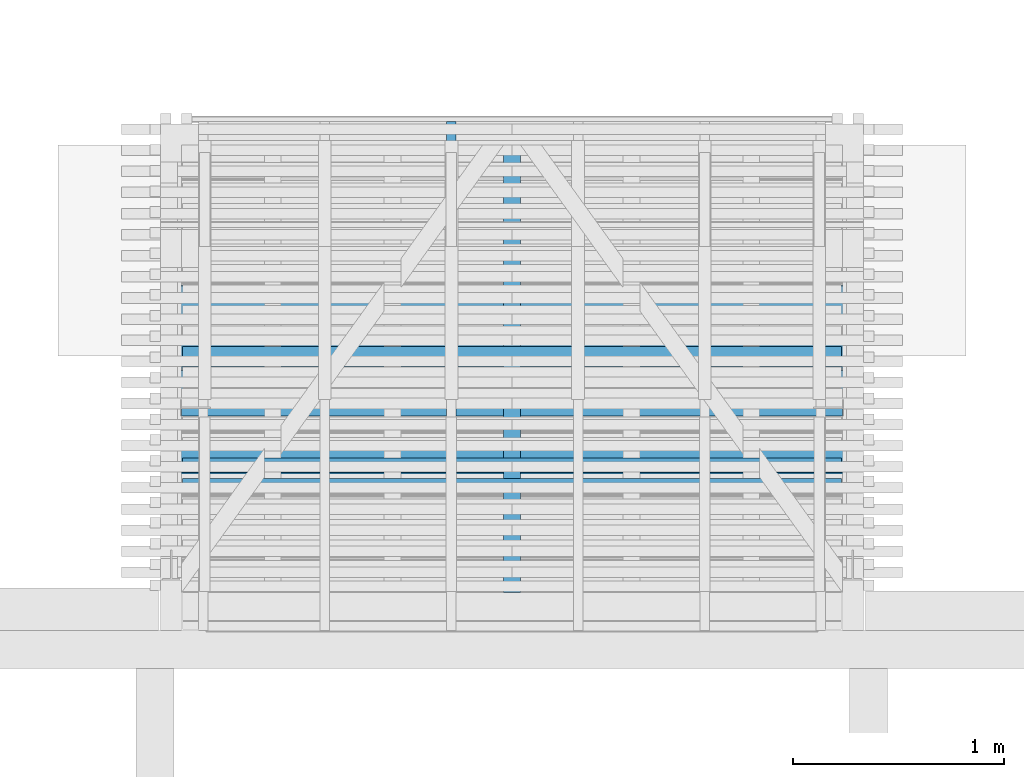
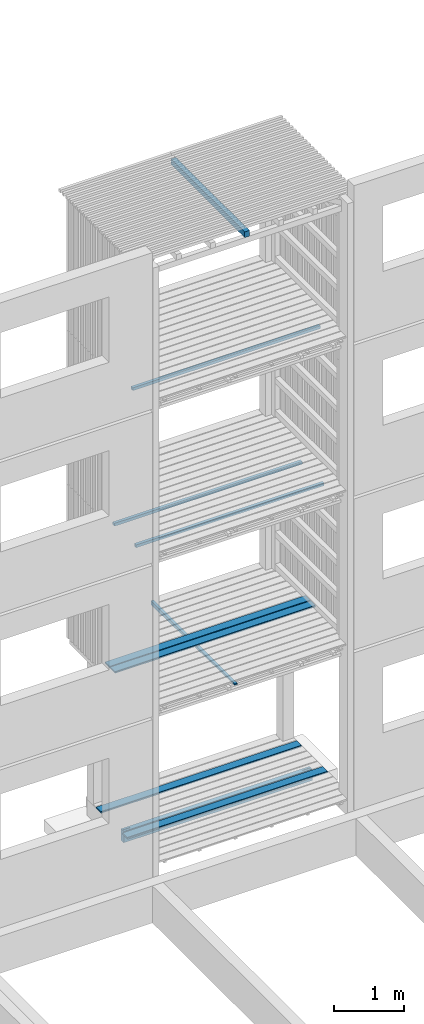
# One storey, part 95 of 182: 10 beams.
"""IFC2X3 building model written with IfcOpenShell, lengths in metres."""

from ifc_helpers import new_model, si_unit, frame, origin, place, context, project, spatial, faceted_brep, element, save


model = new_model("IFC2X3")

# Units and contexts
model_context = context("Model", 3, precision=1e-06, world=origin())
ifc_project = project(units=[si_unit("LENGTHUNIT", "METRE"), si_unit("PLANEANGLEUNIT", "RADIAN")], contexts=[model_context])

# Site, building, storey
site = spatial("IfcSite", under=ifc_project, CompositionType="ELEMENT")
building = spatial("IfcBuilding", under=site, CompositionType="ELEMENT")
storey = spatial("IfcBuildingStorey", under=building, Name="vs", CompositionType="ELEMENT", Elevation=-0.85)

# Beams
placement = place(None, origin())
beam_1_placement = place(placement, frame((46.240401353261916, 6.189244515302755, 5.167399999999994), z_axis=(0.0, 0.0, 1.0), x_axis=(-1.0, 0.0, 0.0)))
element("IfcBeam", 1, at=beam_1_placement, inside=storey, Name="Bardage", context=model_context, shape_type="Brep", body=[
    faceted_brep([(3.120000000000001, 0.025000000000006, -0.024999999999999), (3.120000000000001, 0.025000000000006, 0.025), (3.120000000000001, -0.024999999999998, 0.025), (3.120000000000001, -0.024999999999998, -0.024999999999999), (-3e-15, -0.024999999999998, -0.024999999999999), (-3e-15, -0.024999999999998, 0.025), (-3e-15, 0.025000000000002, 0.025), (-3e-15, 0.025000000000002, -0.024999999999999), (-3e-15, 0.025000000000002, -0.024999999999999), (-3e-15, 0.025000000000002, 0.025), (3.120000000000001, 0.025000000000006, 0.025), (3.120000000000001, 0.025000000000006, -0.024999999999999), (-3e-15, 0.025000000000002, 0.025), (-3e-15, -0.024999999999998, 0.025), (3.120000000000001, -0.024999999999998, 0.025), (3.120000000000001, 0.025000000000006, 0.025), (-3e-15, -0.024999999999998, 0.025), (-3e-15, -0.024999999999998, -0.024999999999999), (3.120000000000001, -0.024999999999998, -0.024999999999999), (3.120000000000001, -0.024999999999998, 0.025), (-3e-15, -0.024999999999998, -0.024999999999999), (-3e-15, 0.025000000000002, -0.024999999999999), (3.120000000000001, 0.025000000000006, -0.024999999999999), (3.120000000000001, -0.024999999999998, -0.024999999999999)], [[[0, 1, 2, 3]], [[4, 5, 6, 7]], [[8, 9, 10, 11]], [[12, 13, 14, 15]], [[16, 17, 18, 19]], [[20, 21, 22, 23]]]),
])
beam_2_placement = place(placement, frame((46.345401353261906, 6.034577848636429, 2.733499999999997), z_axis=(0.0, 0.0, 1.0), x_axis=(-1.0, -1e-14, 0.0)))
element("IfcBeam", 2, at=beam_2_placement, inside=storey, Name="Caillebotis", context=model_context, shape_type="Brep", body=[
    faceted_brep([(3.329999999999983, -0.072500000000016, -0.0135), (3.329999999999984, 0.072499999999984, -0.0135), (3.329999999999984, 0.072499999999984, 0.0085), (3.329999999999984, 0.067499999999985, 0.0135), (3.329999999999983, -0.067500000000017, 0.0135), (3.329999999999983, -0.072500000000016, 0.008500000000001), (-1.5e-14, -0.072499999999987, 0.008500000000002), (-1.5e-14, -0.067499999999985, 0.0135), (-1.4e-14, 0.067500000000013, 0.0135), (-1.4e-14, 0.072500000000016, 0.0085), (-1.4e-14, 0.072500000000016, -0.0135), (-1.5e-14, -0.072499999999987, -0.0135), (3.329999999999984, 0.072499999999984, 0.0085), (3.329999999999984, 0.072499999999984, -0.0135), (-1.4e-14, 0.072500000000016, -0.0135), (-1.4e-14, 0.072500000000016, 0.0085), (3.329999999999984, 0.067499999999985, 0.0135), (3.329999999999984, 0.072499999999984, 0.0085), (-1.4e-14, 0.072500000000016, 0.0085), (-1.4e-14, 0.067500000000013, 0.0135), (3.329999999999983, -0.067500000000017, 0.0135), (3.329999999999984, 0.067499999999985, 0.0135), (-1.4e-14, 0.067500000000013, 0.0135), (-1.5e-14, -0.067499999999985, 0.0135), (3.329999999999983, -0.072500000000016, 0.008500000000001), (3.329999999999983, -0.067500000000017, 0.0135), (-1.5e-14, -0.067499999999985, 0.0135), (-1.5e-14, -0.072499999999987, 0.008500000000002), (3.329999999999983, -0.072500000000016, -0.0135), (3.329999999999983, -0.072500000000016, 0.008500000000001), (-1.5e-14, -0.072499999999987, 0.008500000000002), (-1.5e-14, -0.072499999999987, -0.0135), (-1.4e-14, 0.072500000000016, -0.0135), (3.329999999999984, 0.072499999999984, -0.0135), (3.329999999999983, -0.072500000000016, -0.0135), (-1.5e-14, -0.072499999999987, -0.0135)], [[[0, 1, 2, 3, 4, 5]], [[6, 7, 8, 9, 10, 11]], [[12, 13, 14, 15]], [[16, 17, 18, 19]], [[20, 21, 22, 23]], [[24, 25, 26, 27]], [[28, 29, 30, 31]], [[32, 33, 34, 35]]]),
])
beam_3_placement = place(placement, frame((44.39340135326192, 4.870077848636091, 2.684400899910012), z_axis=(0.0, 0.0, 1.0), x_axis=(0.0, 1.0, 0.0)))
element("IfcBeam", 3, at=beam_3_placement, inside=storey, Name="Calage", context=model_context, shape_type="Brep", body=[
    faceted_brep([(2.410000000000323, -0.022499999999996, -0.035599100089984), (0.0, -0.022499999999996, 0.012600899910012), (0.0, 0.022500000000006, 0.012600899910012), (2.410000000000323, 0.022500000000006, -0.035599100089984), (0.0, 0.022500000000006, 0.035599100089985), (0.0, 0.022500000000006, 0.012600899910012), (0.0, -0.022499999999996, 0.012600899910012), (0.0, -0.022499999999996, 0.035599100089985), (2.410000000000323, 0.022500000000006, -0.035599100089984), (0.0, 0.022500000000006, 0.012600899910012), (0.0, 0.022500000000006, 0.035599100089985), (2.410000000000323, 0.022500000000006, 0.035599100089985), (2.410000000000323, -0.022499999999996, 0.035599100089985), (0.0, -0.022499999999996, 0.035599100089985), (0.0, -0.022499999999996, 0.012600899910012), (2.410000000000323, -0.022499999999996, -0.035599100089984), (2.410000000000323, 0.022500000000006, 0.035599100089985), (0.0, 0.022500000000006, 0.035599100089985), (0.0, -0.022499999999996, 0.035599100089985), (2.410000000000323, -0.022499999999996, 0.035599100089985), (2.410000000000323, 0.022500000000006, -0.035599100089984), (2.410000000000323, 0.022500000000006, 0.035599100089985), (2.410000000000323, -0.022499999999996, 0.035599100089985), (2.410000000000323, -0.022499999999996, -0.035599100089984)], [[[0, 1, 2, 3]], [[4, 5, 6, 7]], [[8, 9, 10, 11]], [[12, 13, 14, 15]], [[16, 17, 18, 19]], [[20, 21, 22, 23]]]),
])
beam_4_placement = place(placement, frame((46.345401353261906, 6.434577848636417, 0.033500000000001), z_axis=(0.0, 0.0, 1.0), x_axis=(-1.0, -1e-15, 0.0)))
element("IfcBeam", 4, at=beam_4_placement, inside=storey, Name="Caillebotis", context=model_context, shape_type="Brep", body=[
    faceted_brep([(3.329999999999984, -0.067499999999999, 0.0135), (3.329999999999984, -0.072500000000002, 0.008500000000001), (3.329999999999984, -0.072500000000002, -0.013500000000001), (3.329999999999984, 0.072500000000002, -0.013500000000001), (3.329999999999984, 0.072500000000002, 0.0085), (3.329999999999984, 0.067499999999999, 0.0135), (0.0, 0.067500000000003, 0.0135), (0.0, 0.072500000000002, 0.0085), (0.0, 0.072500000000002, -0.013500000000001), (0.0, -0.072499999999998, -0.013500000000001), (0.0, -0.072499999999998, 0.008500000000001), (0.0, -0.067499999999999, 0.0135), (3.329999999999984, -0.072500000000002, -0.013500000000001), (3.329999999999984, -0.072500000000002, 0.008500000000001), (0.0, -0.072499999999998, 0.008500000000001), (0.0, -0.072499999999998, -0.013500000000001), (3.329999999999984, 0.072500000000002, -0.013500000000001), (3.329999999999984, -0.072500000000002, -0.013500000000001), (0.0, -0.072499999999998, -0.013500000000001), (0.0, 0.072500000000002, -0.013500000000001), (3.329999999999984, 0.072500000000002, 0.0085), (3.329999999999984, 0.072500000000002, -0.013500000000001), (0.0, 0.072500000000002, -0.013500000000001), (0.0, 0.072500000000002, 0.0085), (3.329999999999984, 0.067499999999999, 0.0135), (3.329999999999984, 0.072500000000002, 0.0085), (0.0, 0.072500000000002, 0.0085), (0.0, 0.067500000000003, 0.0135), (3.329999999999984, -0.067499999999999, 0.0135), (3.329999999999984, 0.067499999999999, 0.0135), (0.0, 0.067500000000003, 0.0135), (0.0, -0.067499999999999, 0.0135), (0.0, -0.072499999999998, 0.008500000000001), (3.329999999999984, -0.072500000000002, 0.008500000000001), (3.329999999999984, -0.067499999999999, 0.0135), (0.0, -0.067499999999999, 0.0135)], [[[0, 1, 2, 3, 4, 5]], [[6, 7, 8, 9, 10, 11]], [[12, 13, 14, 15]], [[16, 17, 18, 19]], [[20, 21, 22, 23]], [[24, 25, 26, 27]], [[28, 29, 30, 31]], [[32, 33, 34, 35]]]),
])
beam_5_placement = place(placement, frame((46.24540135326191, 5.925077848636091, -0.143899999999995), z_axis=(0.0, 0.0, 1.0), x_axis=(-1.0, -2e-15, 0.0)))
element("IfcBeam", 5, at=beam_5_placement, inside=storey, Name="Sommier", context=model_context, shape_type="Brep", body=[
    faceted_brep([(0.137000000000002, -0.003999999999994, 0.1), (0.137000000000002, -0.003999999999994, -0.1), (1e-15, -0.003999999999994, -0.1), (1e-15, -0.003999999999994, 0.1), (0.137000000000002, 0.004000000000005, -0.1), (0.137000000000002, -0.003999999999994, -0.1), (0.137000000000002, -0.003999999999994, 0.1), (0.137000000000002, 0.004000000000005, 0.1), (0.137000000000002, 0.004000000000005, -0.1), (0.137000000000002, 0.004000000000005, 0.1), (1e-15, 0.004000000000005, 0.1), (1e-15, 0.004000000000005, -0.1), (1e-15, -0.003999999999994, 0.1), (1e-15, -0.003999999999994, -0.1), (1e-15, -0.039999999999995, -0.1), (1e-15, -0.039999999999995, 0.1), (1e-15, 0.040000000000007, 0.1), (1e-15, 0.040000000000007, -0.1), (1e-15, 0.004000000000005, -0.1), (1e-15, 0.004000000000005, 0.1), (3.129999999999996, 0.004000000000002, 0.1), (2.992999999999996, 0.004000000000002, 0.1), (2.992999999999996, 0.004000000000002, -0.1), (3.129999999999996, 0.004000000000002, -0.1), (2.992999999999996, -0.004000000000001, 0.1), (2.992999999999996, -0.004000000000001, -0.1), (2.992999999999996, 0.004000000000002, -0.1), (2.992999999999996, 0.004000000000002, 0.1), (3.129999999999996, -0.004000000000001, -0.1), (2.992999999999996, -0.004000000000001, -0.1), (2.992999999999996, -0.004000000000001, 0.1), (3.129999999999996, -0.004000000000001, 0.1), (3.129999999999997, 0.04, 0.1), (3.129999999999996, 0.004000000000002, 0.1), (3.129999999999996, 0.004000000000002, -0.1), (3.129999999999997, 0.04, -0.1), (3.129999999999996, -0.040000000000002, 0.1), (3.129999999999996, -0.040000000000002, -0.1), (3.129999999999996, -0.004000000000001, -0.1), (3.129999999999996, -0.004000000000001, 0.1), (1e-15, -0.039999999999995, -0.1), (1e-15, -0.003999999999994, -0.1), (0.137000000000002, -0.003999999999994, -0.1), (0.137000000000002, 0.004000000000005, -0.1), (1e-15, 0.004000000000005, -0.1), (1e-15, 0.040000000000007, -0.1), (3.129999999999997, 0.04, -0.1), (3.129999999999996, 0.004000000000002, -0.1), (2.992999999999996, 0.004000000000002, -0.1), (2.992999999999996, -0.004000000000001, -0.1), (3.129999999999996, -0.004000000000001, -0.1), (3.129999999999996, -0.040000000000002, -0.1), (2.992999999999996, 0.004000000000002, 0.1), (3.129999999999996, 0.004000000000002, 0.1), (3.129999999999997, 0.04, 0.1), (1e-15, 0.040000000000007, 0.1), (1e-15, 0.004000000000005, 0.1), (0.137000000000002, 0.004000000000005, 0.1), (0.137000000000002, -0.003999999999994, 0.1), (1e-15, -0.003999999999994, 0.1), (1e-15, -0.039999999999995, 0.1), (3.129999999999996, -0.040000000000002, 0.1), (3.129999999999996, -0.004000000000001, 0.1), (2.992999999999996, -0.004000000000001, 0.1), (1e-15, 0.040000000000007, 0.1), (3.129999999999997, 0.04, 0.1), (3.129999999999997, 0.04, -0.1), (1e-15, 0.040000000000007, -0.1), (1e-15, -0.039999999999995, -0.1), (3.129999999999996, -0.040000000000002, -0.1), (3.129999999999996, -0.040000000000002, 0.1), (1e-15, -0.039999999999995, 0.1)], [[[0, 1, 2, 3]], [[4, 5, 6, 7]], [[8, 9, 10, 11]], [[12, 13, 14, 15]], [[16, 17, 18, 19]], [[20, 21, 22, 23]], [[24, 25, 26, 27]], [[28, 29, 30, 31]], [[32, 33, 34, 35]], [[36, 37, 38, 39]], [[40, 41, 42, 43, 44, 45, 46, 47, 48, 49, 50, 51]], [[52, 53, 54, 55, 56, 57, 58, 59, 60, 61, 62, 63]], [[64, 65, 66, 67]], [[68, 69, 70, 71]]]),
])
beam_6_placement = place(placement, frame((46.345401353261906, 5.684577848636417, 0.033500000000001), z_axis=(0.0, 0.0, 1.0), x_axis=(-1.0, -1e-15, 0.0)))
element("IfcBeam", 6, at=beam_6_placement, inside=storey, Name="Caillebotis", context=model_context, shape_type="Brep", body=[
    faceted_brep([(3.329999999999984, -0.067499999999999, 0.0135), (3.329999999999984, -0.072500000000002, 0.008500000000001), (3.329999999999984, -0.072500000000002, -0.013500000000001), (3.329999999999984, 0.072500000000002, -0.013500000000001), (3.329999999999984, 0.072500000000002, 0.0085), (3.329999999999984, 0.067499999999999, 0.0135), (0.0, 0.067500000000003, 0.0135), (0.0, 0.072500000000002, 0.0085), (0.0, 0.072500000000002, -0.013500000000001), (0.0, -0.072499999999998, -0.013500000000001), (0.0, -0.072499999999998, 0.008500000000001), (0.0, -0.067499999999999, 0.0135), (3.329999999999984, -0.072500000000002, -0.013500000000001), (3.329999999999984, -0.072500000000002, 0.008500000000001), (0.0, -0.072499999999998, 0.008500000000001), (0.0, -0.072499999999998, -0.013500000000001), (3.329999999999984, 0.072500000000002, -0.013500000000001), (3.329999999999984, -0.072500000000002, -0.013500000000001), (0.0, -0.072499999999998, -0.013500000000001), (0.0, 0.072500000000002, -0.013500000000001), (3.329999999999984, 0.072500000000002, 0.0085), (3.329999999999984, 0.072500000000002, -0.013500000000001), (0.0, 0.072500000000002, -0.013500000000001), (0.0, 0.072500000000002, 0.0085), (3.329999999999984, 0.067499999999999, 0.0135), (3.329999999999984, 0.072500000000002, 0.0085), (0.0, 0.072500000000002, 0.0085), (0.0, 0.067500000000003, 0.0135), (3.329999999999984, -0.067499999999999, 0.0135), (3.329999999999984, 0.067499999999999, 0.0135), (0.0, 0.067500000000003, 0.0135), (0.0, -0.067499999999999, 0.0135), (0.0, -0.072499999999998, 0.008500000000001), (3.329999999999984, -0.072500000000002, 0.008500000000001), (3.329999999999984, -0.067499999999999, 0.0135), (0.0, -0.067499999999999, 0.0135)], [[[0, 1, 2, 3, 4, 5]], [[6, 7, 8, 9, 10, 11]], [[12, 13, 14, 15]], [[16, 17, 18, 19]], [[20, 21, 22, 23]], [[24, 25, 26, 27]], [[28, 29, 30, 31]], [[32, 33, 34, 35]]]),
])
beam_7_placement = place(placement, frame((46.345401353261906, 6.184577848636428, 2.733499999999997), z_axis=(0.0, 0.0, 1.0), x_axis=(-1.0, -8e-15, 0.0)))
element("IfcBeam", 7, at=beam_7_placement, inside=storey, Name="Caillebotis", context=model_context, shape_type="Brep", body=[
    faceted_brep([(3.329999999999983, -0.072500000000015, -0.0135), (3.329999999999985, 0.072499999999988, -0.0135), (3.329999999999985, 0.072499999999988, 0.0085), (3.329999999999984, 0.067499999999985, 0.0135), (3.329999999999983, -0.067500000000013, 0.0135), (3.329999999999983, -0.072500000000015, 0.008500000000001), (-1.5e-14, -0.072499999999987, 0.008500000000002), (-1.5e-14, -0.067499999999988, 0.0135), (-1.4e-14, 0.067500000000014, 0.013500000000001), (-1.4e-14, 0.072500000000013, 0.0085), (-1.4e-14, 0.072500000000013, -0.0135), (-1.5e-14, -0.072499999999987, -0.0135), (3.329999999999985, 0.072499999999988, 0.0085), (3.329999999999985, 0.072499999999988, -0.0135), (-1.4e-14, 0.072500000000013, -0.0135), (-1.4e-14, 0.072500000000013, 0.0085), (3.329999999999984, 0.067499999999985, 0.0135), (3.329999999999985, 0.072499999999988, 0.0085), (-1.4e-14, 0.072500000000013, 0.0085), (-1.4e-14, 0.067500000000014, 0.013500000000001), (3.329999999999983, -0.067500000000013, 0.0135), (3.329999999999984, 0.067499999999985, 0.0135), (-1.4e-14, 0.067500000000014, 0.013500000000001), (-1.5e-14, -0.067499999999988, 0.0135), (3.329999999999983, -0.072500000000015, 0.008500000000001), (3.329999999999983, -0.067500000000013, 0.0135), (-1.5e-14, -0.067499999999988, 0.0135), (-1.5e-14, -0.072499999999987, 0.008500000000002), (3.329999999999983, -0.072500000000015, -0.0135), (3.329999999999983, -0.072500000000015, 0.008500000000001), (-1.5e-14, -0.072499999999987, 0.008500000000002), (-1.5e-14, -0.072499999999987, -0.0135), (-1.4e-14, 0.072500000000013, -0.0135), (3.329999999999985, 0.072499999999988, -0.0135), (3.329999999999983, -0.072500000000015, -0.0135), (-1.5e-14, -0.072499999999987, -0.0135)], [[[0, 1, 2, 3, 4, 5]], [[6, 7, 8, 9, 10, 11]], [[12, 13, 14, 15]], [[16, 17, 18, 19]], [[20, 21, 22, 23]], [[24, 25, 26, 27]], [[28, 29, 30, 31]], [[32, 33, 34, 35]]]),
])
beam_8_placement = place(placement, frame((44.68040135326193, 5.050077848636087, 10.404999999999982), z_axis=(0.0, 0.0, 1.0), x_axis=(0.0, 1.0, 0.0)))
element("IfcBeam", 8, at=beam_8_placement, inside=storey, Name="Support bardage", context=model_context, shape_type="Brep", body=[
    faceted_brep([(2.120000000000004, -0.039999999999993, 0.050000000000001), (2.120000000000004, 0.040000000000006, 0.050000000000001), (3e-15, 0.040000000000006, 0.050000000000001), (3e-15, -0.039999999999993, 0.050000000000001), (3e-15, 0.040000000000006, 0.050000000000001), (2.120000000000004, 0.040000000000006, 0.050000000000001), (2.120000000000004, 0.040000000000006, -0.050000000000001), (3e-15, 0.040000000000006, -0.050000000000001), (2.120000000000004, 0.040000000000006, 0.050000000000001), (2.120000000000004, -0.039999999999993, 0.050000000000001), (2.120000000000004, -0.039999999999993, -0.050000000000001), (2.120000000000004, 0.040000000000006, -0.050000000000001), (2.120000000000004, -0.039999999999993, -0.050000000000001), (2.120000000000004, -0.039999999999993, 0.050000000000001), (3e-15, -0.039999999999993, 0.050000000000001), (3e-15, -0.039999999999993, -0.050000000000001), (3e-15, 0.040000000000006, -0.050000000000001), (2.120000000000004, 0.040000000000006, -0.050000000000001), (2.120000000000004, -0.039999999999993, -0.050000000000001), (3e-15, -0.039999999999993, -0.050000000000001), (3e-15, 0.040000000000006, 0.050000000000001), (3e-15, 0.040000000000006, -0.050000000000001), (3e-15, -0.039999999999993, -0.050000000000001), (3e-15, -0.039999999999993, 0.050000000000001)], [[[0, 1, 2, 3]], [[4, 5, 6, 7]], [[8, 9, 10, 11]], [[12, 13, 14, 15]], [[16, 17, 18, 19]], [[20, 21, 22, 23]]]),
])
beam_9_placement = place(placement, frame((46.240401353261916, 5.661327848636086, 7.867999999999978), z_axis=(0.0, 0.0, 1.0), x_axis=(-1.0, 0.0, 0.0)))
element("IfcBeam", 9, at=beam_9_placement, inside=storey, Name="Bardage", context=model_context, shape_type="Brep", body=[
    faceted_brep([(3.120000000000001, 0.024999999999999, -0.025000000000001), (3.120000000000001, -0.024999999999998, -0.025000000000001), (-3e-15, -0.025000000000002, -0.025000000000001), (-3e-15, 0.024999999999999, -0.025000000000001), (-3e-15, -0.025000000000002, -0.025000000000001), (3.120000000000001, -0.024999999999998, -0.025000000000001), (3.120000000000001, -0.024999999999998, 0.024999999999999), (-3e-15, -0.025000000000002, 0.024999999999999), (3.120000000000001, -0.024999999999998, -0.025000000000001), (3.120000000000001, 0.024999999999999, -0.025000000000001), (3.120000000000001, 0.024999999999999, 0.024999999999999), (3.120000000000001, -0.024999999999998, 0.024999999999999), (3.120000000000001, 0.024999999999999, 0.024999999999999), (3.120000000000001, 0.024999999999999, -0.025000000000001), (-3e-15, 0.024999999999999, -0.025000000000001), (-3e-15, 0.024999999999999, 0.024999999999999), (-3e-15, -0.025000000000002, 0.024999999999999), (3.120000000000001, -0.024999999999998, 0.024999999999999), (3.120000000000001, 0.024999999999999, 0.024999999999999), (-3e-15, 0.024999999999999, 0.024999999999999), (-3e-15, -0.025000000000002, -0.025000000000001), (-3e-15, -0.025000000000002, 0.024999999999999), (-3e-15, 0.024999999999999, 0.024999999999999), (-3e-15, 0.024999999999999, -0.025000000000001)], [[[0, 1, 2, 3]], [[4, 5, 6, 7]], [[8, 9, 10, 11]], [[12, 13, 14, 15]], [[16, 17, 18, 19]], [[20, 21, 22, 23]]]),
])
beam_10_placement = place(placement, frame((46.240401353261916, 5.564452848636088, 5.167999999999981), z_axis=(0.0, 0.0, 1.0), x_axis=(-1.0, 0.0, 0.0)))
element("IfcBeam", 10, at=beam_10_placement, inside=storey, Name="Bardage", context=model_context, shape_type="Brep", body=[
    faceted_brep([(3.120000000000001, 0.025000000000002, -0.025), (3.120000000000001, -0.024999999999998, -0.025), (-3e-15, -0.024999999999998, -0.025), (-3e-15, 0.024999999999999, -0.025), (-3e-15, -0.024999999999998, -0.025), (3.120000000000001, -0.024999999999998, -0.025), (3.120000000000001, -0.024999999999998, 0.025000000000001), (-3e-15, -0.024999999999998, 0.025000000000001), (3.120000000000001, -0.024999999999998, -0.025), (3.120000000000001, 0.025000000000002, -0.025), (3.120000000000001, 0.025000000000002, 0.025000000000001), (3.120000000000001, -0.024999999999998, 0.025000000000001), (3.120000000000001, 0.025000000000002, 0.025000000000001), (3.120000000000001, 0.025000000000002, -0.025), (-3e-15, 0.024999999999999, -0.025), (-3e-15, 0.024999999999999, 0.025000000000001), (-3e-15, -0.024999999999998, 0.025000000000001), (3.120000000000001, -0.024999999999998, 0.025000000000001), (3.120000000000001, 0.025000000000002, 0.025000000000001), (-3e-15, 0.024999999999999, 0.025000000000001), (-3e-15, -0.024999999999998, -0.025), (-3e-15, -0.024999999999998, 0.025000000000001), (-3e-15, 0.024999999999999, 0.025000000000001), (-3e-15, 0.024999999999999, -0.025)], [[[0, 1, 2, 3]], [[4, 5, 6, 7]], [[8, 9, 10, 11]], [[12, 13, 14, 15]], [[16, 17, 18, 19]], [[20, 21, 22, 23]]]),
])

save(model, "model.ifc")
